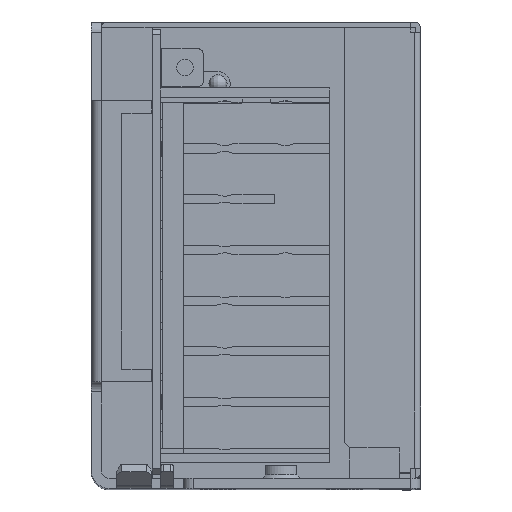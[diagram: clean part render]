
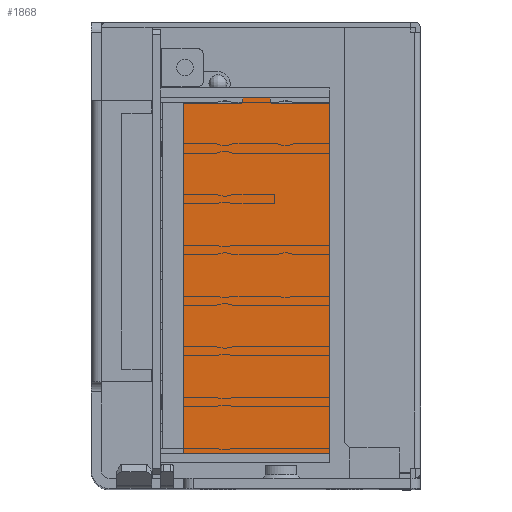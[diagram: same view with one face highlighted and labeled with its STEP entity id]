
A CAD part, top view. The second image highlights one B-rep face of the part: STEP entity #1868.
In plain terms, the highlighted planar face has unit normal (0, 0, 1).
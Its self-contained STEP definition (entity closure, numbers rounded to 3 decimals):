
#1868 = ADVANCED_FACE ( 'NONE', ( #23107 ), #23112, .T. ) ;
#1914 = EDGE_LOOP ( 'NONE', ( #1916, #2037, #2040, #2047, #2051, #2056, #1938, #1942, #1946, #1950, #2233, #2252 ) ) ;
#1916 = ORIENTED_EDGE ( 'NONE', *, *, #1918, .T. ) ;
#1918 = EDGE_CURVE ( 'NONE', #1920, #2035, #23169, .T. ) ;
#1920 = VERTEX_POINT ( 'NONE', #23146 ) ;
#1938 = ORIENTED_EDGE ( 'NONE', *, *, #1940, .T. ) ;
#1940 = EDGE_CURVE ( 'NONE', #2089, #1941, #23183, .T. ) ;
#1941 = VERTEX_POINT ( 'NONE', #23182 ) ;
#1942 = ORIENTED_EDGE ( 'NONE', *, *, #1944, .T. ) ;
#1944 = EDGE_CURVE ( 'NONE', #1941, #1945, #23181, .T. ) ;
#1945 = VERTEX_POINT ( 'NONE', #23190 ) ;
#1946 = ORIENTED_EDGE ( 'NONE', *, *, #1948, .T. ) ;
#1948 = EDGE_CURVE ( 'NONE', #1945, #1949, #23189, .T. ) ;
#1949 = VERTEX_POINT ( 'NONE', #23132 ) ;
#1950 = ORIENTED_EDGE ( 'NONE', *, *, #1951, .T. ) ;
#1951 = EDGE_CURVE ( 'NONE', #1949, #1952, #23131, .T. ) ;
#1952 = VERTEX_POINT ( 'NONE', #23185 ) ;
#2033 = VERTEX_POINT ( 'NONE', #23287 ) ;
#2035 = VERTEX_POINT ( 'NONE', #23326 ) ;
#2037 = ORIENTED_EDGE ( 'NONE', *, *, #2038, .T. ) ;
#2038 = EDGE_CURVE ( 'NONE', #2035, #2039, #23322, .T. ) ;
#2039 = VERTEX_POINT ( 'NONE', #23273 ) ;
#2040 = ORIENTED_EDGE ( 'NONE', *, *, #2041, .T. ) ;
#2041 = EDGE_CURVE ( 'NONE', #2039, #2044, #23350, .T. ) ;
#2044 = VERTEX_POINT ( 'NONE', #23362 ) ;
#2047 = ORIENTED_EDGE ( 'NONE', *, *, #2048, .T. ) ;
#2048 = EDGE_CURVE ( 'NONE', #2044, #2049, #23284, .T. ) ;
#2049 = VERTEX_POINT ( 'NONE', #23280 ) ;
#2051 = ORIENTED_EDGE ( 'NONE', *, *, #2053, .T. ) ;
#2053 = EDGE_CURVE ( 'NONE', #2049, #2055, #23353, .T. ) ;
#2055 = VERTEX_POINT ( 'NONE', #23271 ) ;
#2056 = ORIENTED_EDGE ( 'NONE', *, *, #2088, .T. ) ;
#2088 = EDGE_CURVE ( 'NONE', #2055, #2089, #23378, .T. ) ;
#2089 = VERTEX_POINT ( 'NONE', #23374 ) ;
#2163 = EDGE_CURVE ( 'NONE', #2033, #1920, #23527, .T. ) ;
#2233 = ORIENTED_EDGE ( 'NONE', *, *, #2333, .T. ) ;
#2252 = ORIENTED_EDGE ( 'NONE', *, *, #2163, .T. ) ;
#2333 = EDGE_CURVE ( 'NONE', #1952, #2033, #24941, .T. ) ;
#23055 = DIRECTION ( 'NONE',  ( 1., 0., 0. ) ) ;
#23056 = DIRECTION ( 'NONE',  ( 0., 0., 1. ) ) ;
#23057 = CARTESIAN_POINT ( 'NONE',  ( 47.1, 75.9, 215.1 ) ) ;
#23058 = AXIS2_PLACEMENT_3D ( 'NONE', #23057, #23056, #23055 ) ;
#23107 = FACE_OUTER_BOUND ( 'NONE', #1914, .T. ) ;
#23112 = PLANE ( 'NONE',  #23058 ) ;
#23130 = CARTESIAN_POINT ( 'NONE',  ( 29.6, 6.9, 215.1 ) ) ;
#23131 = LINE ( 'NONE', #23130, #23187 ) ;
#23132 = CARTESIAN_POINT ( 'NONE',  ( 18.1, 6.9, 215.1 ) ) ;
#23133 = DIRECTION ( 'NONE',  ( 0., -1., 0. ) ) ;
#23134 = VECTOR ( 'NONE', #23133, 1000. ) ;
#23146 = CARTESIAN_POINT ( 'NONE',  ( 35.1, 5.4, 215.1 ) ) ;
#23149 = CARTESIAN_POINT ( 'NONE',  ( 35.6, 6.9, 215.1 ) ) ;
#23151 = DIRECTION ( 'NONE',  ( -0.316, -0.949, 0. ) ) ;
#23152 = VECTOR ( 'NONE', #23151, 1000. ) ;
#23153 = CARTESIAN_POINT ( 'NONE',  ( 30.1, 77.4, 215.1 ) ) ;
#23156 = DIRECTION ( 'NONE',  ( 0.316, 0.949, 0. ) ) ;
#23169 = LINE ( 'NONE', #23149, #23171 ) ;
#23171 = VECTOR ( 'NONE', #23156, 1000. ) ;
#23180 = CARTESIAN_POINT ( 'NONE',  ( 29.6, 75.9, 215.1 ) ) ;
#23181 = LINE ( 'NONE', #23180, #23192 ) ;
#23182 = CARTESIAN_POINT ( 'NONE',  ( 29.6, 75.9, 215.1 ) ) ;
#23183 = LINE ( 'NONE', #23153, #23152 ) ;
#23185 = CARTESIAN_POINT ( 'NONE',  ( 29.6, 6.9, 215.1 ) ) ;
#23186 = DIRECTION ( 'NONE',  ( 1., 0., 0. ) ) ;
#23187 = VECTOR ( 'NONE', #23186, 1000. ) ;
#23188 = CARTESIAN_POINT ( 'NONE',  ( 18.1, 75.9, 215.1 ) ) ;
#23189 = LINE ( 'NONE', #23188, #23134 ) ;
#23190 = CARTESIAN_POINT ( 'NONE',  ( 18.1, 75.9, 215.1 ) ) ;
#23191 = DIRECTION ( 'NONE',  ( -1., 0., 0. ) ) ;
#23192 = VECTOR ( 'NONE', #23191, 1000. ) ;
#23271 = CARTESIAN_POINT ( 'NONE',  ( 35.1, 77.4, 215.1 ) ) ;
#23272 = DIRECTION ( 'NONE',  ( -0.316, 0.949, 0. ) ) ;
#23273 = CARTESIAN_POINT ( 'NONE',  ( 47.1, 6.9, 215.1 ) ) ;
#23280 = CARTESIAN_POINT ( 'NONE',  ( 35.6, 75.9, 215.1 ) ) ;
#23281 = DIRECTION ( 'NONE',  ( -1., 0., 0. ) ) ;
#23282 = VECTOR ( 'NONE', #23281, 1000. ) ;
#23283 = CARTESIAN_POINT ( 'NONE',  ( 47.1, 75.9, 215.1 ) ) ;
#23284 = LINE ( 'NONE', #23283, #23282 ) ;
#23287 = CARTESIAN_POINT ( 'NONE',  ( 30.1, 5.4, 215.1 ) ) ;
#23319 = DIRECTION ( 'NONE',  ( 1., 0., 0. ) ) ;
#23320 = VECTOR ( 'NONE', #23319, 1000. ) ;
#23321 = CARTESIAN_POINT ( 'NONE',  ( 47.1, 6.9, 215.1 ) ) ;
#23322 = LINE ( 'NONE', #23321, #23320 ) ;
#23326 = CARTESIAN_POINT ( 'NONE',  ( 35.6, 6.9, 215.1 ) ) ;
#23348 = DIRECTION ( 'NONE',  ( 0., 1., 0. ) ) ;
#23349 = CARTESIAN_POINT ( 'NONE',  ( 47.1, 6.9, 215.1 ) ) ;
#23350 = LINE ( 'NONE', #23349, #23363 ) ;
#23351 = VECTOR ( 'NONE', #23272, 1000. ) ;
#23352 = CARTESIAN_POINT ( 'NONE',  ( 35.6, 75.9, 215.1 ) ) ;
#23353 = LINE ( 'NONE', #23352, #23351 ) ;
#23362 = CARTESIAN_POINT ( 'NONE',  ( 47.1, 75.9, 215.1 ) ) ;
#23363 = VECTOR ( 'NONE', #23348, 1000. ) ;
#23374 = CARTESIAN_POINT ( 'NONE',  ( 30.1, 77.4, 215.1 ) ) ;
#23375 = DIRECTION ( 'NONE',  ( -1., 0., 0. ) ) ;
#23376 = VECTOR ( 'NONE', #23375, 1000. ) ;
#23377 = CARTESIAN_POINT ( 'NONE',  ( 35.1, 77.4, 215.1 ) ) ;
#23378 = LINE ( 'NONE', #23377, #23376 ) ;
#23526 = CARTESIAN_POINT ( 'NONE',  ( 35.1, 5.4, 215.1 ) ) ;
#23527 = LINE ( 'NONE', #23526, #23534 ) ;
#23533 = DIRECTION ( 'NONE',  ( 1., 0., 0. ) ) ;
#23534 = VECTOR ( 'NONE', #23533, 1000. ) ;
#24773 = DIRECTION ( 'NONE',  ( 0.316, -0.949, 0. ) ) ;
#24789 = CARTESIAN_POINT ( 'NONE',  ( 30.1, 5.4, 215.1 ) ) ;
#24840 = VECTOR ( 'NONE', #24773, 1000. ) ;
#24941 = LINE ( 'NONE', #24789, #24840 ) ;
